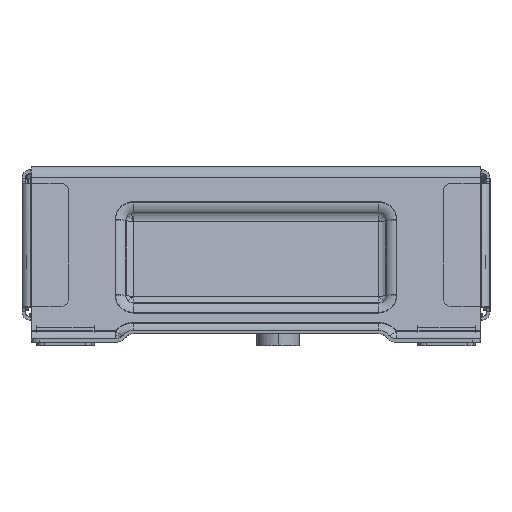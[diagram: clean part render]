
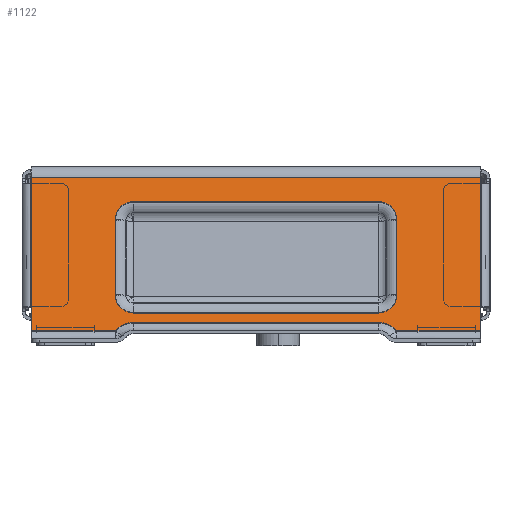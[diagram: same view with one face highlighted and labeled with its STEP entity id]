
A CAD part, left-side view. The second image highlights one B-rep face of the part: STEP entity #1122.
In plain terms, the highlighted planar face has unit normal (-0.979, 0, 0.203).
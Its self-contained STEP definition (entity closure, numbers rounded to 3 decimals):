
#750=CARTESIAN_POINT('Vertex',(-474.382,-861.,100.023)) ;
#753=CARTESIAN_POINT('Line Origine',(-483.738,-861.,54.853)) ;
#757=CARTESIAN_POINT('Vertex',(-493.095,-861.,9.683)) ;
#966=CARTESIAN_POINT('Vertex',(-493.095,-811.724,9.683)) ;
#976=CARTESIAN_POINT('Line Origine',(-493.095,-729.,9.683)) ;
#989=CARTESIAN_POINT('Axis2P3D Location',(-473.061,-729.,106.4)) ;
#994=CARTESIAN_POINT('Line Origine',(-492.059,-729.,14.683)) ;
#998=CARTESIAN_POINT('Vertex',(-492.059,-801.,14.683)) ;
#1000=CARTESIAN_POINT('Vertex',(-492.059,-657.,14.683)) ;
#1004=CARTESIAN_POINT('Control Point',(-493.095,-811.724,9.683)) ;
#1005=CARTESIAN_POINT('Control Point',(-492.893,-810.91,10.654)) ;
#1006=CARTESIAN_POINT('Control Point',(-492.711,-809.983,11.535)) ;
#1007=CARTESIAN_POINT('Control Point',(-492.551,-808.957,12.308)) ;
#1008=CARTESIAN_POINT('Control Point',(-492.293,-806.839,13.554)) ;
#1009=CARTESIAN_POINT('Control Point',(-492.135,-804.496,14.315)) ;
#1010=CARTESIAN_POINT('Control Point',(-492.084,-803.343,14.561)) ;
#1011=CARTESIAN_POINT('Control Point',(-492.059,-802.172,14.683)) ;
#1012=CARTESIAN_POINT('Control Point',(-492.059,-801.,14.683)) ;
#1014=CARTESIAN_POINT('Line Origine',(-474.382,-729.,100.023)) ;
#1018=CARTESIAN_POINT('Vertex',(-474.382,-597.,100.023)) ;
#1021=CARTESIAN_POINT('Line Origine',(-483.738,-597.,54.853)) ;
#1025=CARTESIAN_POINT('Vertex',(-493.095,-597.,9.683)) ;
#1028=CARTESIAN_POINT('Line Origine',(-493.095,-621.639,9.683)) ;
#1032=CARTESIAN_POINT('Vertex',(-493.095,-646.277,9.683)) ;
#1036=CARTESIAN_POINT('Control Point',(-492.059,-657.,14.683)) ;
#1037=CARTESIAN_POINT('Control Point',(-492.059,-655.729,14.683)) ;
#1038=CARTESIAN_POINT('Control Point',(-492.089,-654.457,14.539)) ;
#1039=CARTESIAN_POINT('Control Point',(-492.149,-653.208,14.249)) ;
#1040=CARTESIAN_POINT('Control Point',(-492.32,-650.885,13.425)) ;
#1041=CARTESIAN_POINT('Control Point',(-492.589,-648.804,12.124)) ;
#1042=CARTESIAN_POINT('Control Point',(-492.74,-647.873,11.396)) ;
#1043=CARTESIAN_POINT('Control Point',(-492.909,-647.027,10.578)) ;
#1044=CARTESIAN_POINT('Control Point',(-493.095,-646.277,9.683)) ;
#1056=CARTESIAN_POINT('Line Origine',(-477.377,-729.,85.561)) ;
#1060=CARTESIAN_POINT('Vertex',(-477.377,-801.,85.561)) ;
#1062=CARTESIAN_POINT('Vertex',(-477.377,-657.,85.561)) ;
#1065=CARTESIAN_POINT('Axis2P3D Location',(-479.552,-801.,75.06)) ;
#1069=CARTESIAN_POINT('Vertex',(-479.552,-811.724,75.06)) ;
#1072=CARTESIAN_POINT('Line Origine',(-484.11,-811.724,53.06)) ;
#1076=CARTESIAN_POINT('Vertex',(-488.667,-811.724,31.06)) ;
#1079=CARTESIAN_POINT('Axis2P3D Location',(-488.667,-801.,31.06)) ;
#1083=CARTESIAN_POINT('Vertex',(-490.842,-801.,20.559)) ;
#1086=CARTESIAN_POINT('Line Origine',(-490.842,-729.,20.559)) ;
#1090=CARTESIAN_POINT('Vertex',(-490.842,-657.,20.559)) ;
#1093=CARTESIAN_POINT('Axis2P3D Location',(-488.667,-657.,31.06)) ;
#1097=CARTESIAN_POINT('Vertex',(-488.667,-646.277,31.06)) ;
#1100=CARTESIAN_POINT('Line Origine',(-484.11,-646.277,53.06)) ;
#1104=CARTESIAN_POINT('Vertex',(-479.552,-646.277,75.06)) ;
#1107=CARTESIAN_POINT('Axis2P3D Location',(-479.552,-657.,75.06)) ;
#754=DIRECTION('Vector Direction',(-0.203,0.,-0.979)) ;
#977=DIRECTION('Vector Direction',(0.,1.,0.)) ;
#990=DIRECTION('Axis2P3D Direction',(0.979,0.,-0.203)) ;
#991=DIRECTION('Axis2P3D XDirection',(-0.203,0.,-0.979)) ;
#995=DIRECTION('Vector Direction',(0.,-1.,0.)) ;
#1015=DIRECTION('Vector Direction',(0.,1.,0.)) ;
#1022=DIRECTION('Vector Direction',(-0.203,0.,-0.979)) ;
#1029=DIRECTION('Vector Direction',(0.,1.,0.)) ;
#1057=DIRECTION('Vector Direction',(0.,-1.,0.)) ;
#1066=DIRECTION('Axis2P3D Direction',(0.979,0.,-0.203)) ;
#1073=DIRECTION('Vector Direction',(-0.203,0.,-0.979)) ;
#1080=DIRECTION('Axis2P3D Direction',(0.979,0.,-0.203)) ;
#1087=DIRECTION('Vector Direction',(0.,1.,0.)) ;
#1094=DIRECTION('Axis2P3D Direction',(0.979,0.,-0.203)) ;
#1101=DIRECTION('Vector Direction',(0.203,0.,0.979)) ;
#1108=DIRECTION('Axis2P3D Direction',(0.979,0.,-0.203)) ;
#992=AXIS2_PLACEMENT_3D('Plane Axis2P3D',#989,#990,#991) ;
#1067=AXIS2_PLACEMENT_3D('Circle Axis2P3D',#1065,#1066,$) ;
#1081=AXIS2_PLACEMENT_3D('Circle Axis2P3D',#1079,#1080,$) ;
#1095=AXIS2_PLACEMENT_3D('Circle Axis2P3D',#1093,#1094,$) ;
#1109=AXIS2_PLACEMENT_3D('Circle Axis2P3D',#1107,#1108,$) ;
#1047=ORIENTED_EDGE('',*,*,#1002,.F.) ;
#1048=ORIENTED_EDGE('',*,*,#1013,.F.) ;
#1049=ORIENTED_EDGE('',*,*,#980,.F.) ;
#1050=ORIENTED_EDGE('',*,*,#759,.F.) ;
#1051=ORIENTED_EDGE('',*,*,#1020,.T.) ;
#1052=ORIENTED_EDGE('',*,*,#1027,.T.) ;
#1053=ORIENTED_EDGE('',*,*,#1034,.F.) ;
#1054=ORIENTED_EDGE('',*,*,#1045,.F.) ;
#1113=ORIENTED_EDGE('',*,*,#1064,.F.) ;
#1114=ORIENTED_EDGE('',*,*,#1071,.F.) ;
#1115=ORIENTED_EDGE('',*,*,#1078,.F.) ;
#1116=ORIENTED_EDGE('',*,*,#1085,.F.) ;
#1117=ORIENTED_EDGE('',*,*,#1092,.F.) ;
#1118=ORIENTED_EDGE('',*,*,#1099,.F.) ;
#1119=ORIENTED_EDGE('',*,*,#1106,.F.) ;
#1120=ORIENTED_EDGE('',*,*,#1111,.F.) ;
#1121=FACE_BOUND('',#1112,.T.) ;
#755=VECTOR('Line Direction',#754,1.) ;
#978=VECTOR('Line Direction',#977,1.) ;
#996=VECTOR('Line Direction',#995,1.) ;
#1016=VECTOR('Line Direction',#1015,1.) ;
#1023=VECTOR('Line Direction',#1022,1.) ;
#1030=VECTOR('Line Direction',#1029,1.) ;
#1058=VECTOR('Line Direction',#1057,1.) ;
#1074=VECTOR('Line Direction',#1073,1.) ;
#1088=VECTOR('Line Direction',#1087,1.) ;
#1102=VECTOR('Line Direction',#1101,1.) ;
#1122=ADVANCED_FACE('SHT0016014.1\\SHT0016145-\X2\5BBD8F664E3B9A7E9A76524D4FA794A391D1\X0\',(#1055,#1121),#993,.F.) ;
#1003=B_SPLINE_CURVE_WITH_KNOTS('',5,(#1004,#1005,#1006,#1007,#1008,#1009,#1010,#1011,#1012),.UNSPECIFIED.,.F.,.U.,(6,3,6),(0.,9.094,17.391),.UNSPECIFIED.) ;
#1035=B_SPLINE_CURVE_WITH_KNOTS('',5,(#1036,#1037,#1038,#1039,#1040,#1041,#1042,#1043,#1044),.UNSPECIFIED.,.F.,.U.,(6,3,6),(0.,9.01,17.391),.UNSPECIFIED.) ;
#1068=CIRCLE('generated circle',#1067,10.724) ;
#1082=CIRCLE('generated circle',#1081,10.724) ;
#1096=CIRCLE('generated circle',#1095,10.724) ;
#1110=CIRCLE('generated circle',#1109,10.724) ;
#759=EDGE_CURVE('',#751,#758,#756,.T.) ;
#980=EDGE_CURVE('',#758,#967,#979,.T.) ;
#1002=EDGE_CURVE('',#999,#1001,#997,.F.) ;
#1013=EDGE_CURVE('',#967,#999,#1003,.T.) ;
#1020=EDGE_CURVE('',#751,#1019,#1017,.T.) ;
#1027=EDGE_CURVE('',#1019,#1026,#1024,.T.) ;
#1034=EDGE_CURVE('',#1033,#1026,#1031,.T.) ;
#1045=EDGE_CURVE('',#1001,#1033,#1035,.T.) ;
#1064=EDGE_CURVE('',#1061,#1063,#1059,.F.) ;
#1071=EDGE_CURVE('',#1070,#1061,#1068,.F.) ;
#1078=EDGE_CURVE('',#1077,#1070,#1075,.F.) ;
#1085=EDGE_CURVE('',#1084,#1077,#1082,.F.) ;
#1092=EDGE_CURVE('',#1091,#1084,#1089,.F.) ;
#1099=EDGE_CURVE('',#1098,#1091,#1096,.F.) ;
#1106=EDGE_CURVE('',#1105,#1098,#1103,.F.) ;
#1111=EDGE_CURVE('',#1063,#1105,#1110,.F.) ;
#1046=EDGE_LOOP('',(#1047,#1048,#1049,#1050,#1051,#1052,#1053,#1054)) ;
#1112=EDGE_LOOP('',(#1113,#1114,#1115,#1116,#1117,#1118,#1119,#1120)) ;
#1055=FACE_OUTER_BOUND('',#1046,.T.) ;
#756=LINE('Line',#753,#755) ;
#979=LINE('Line',#976,#978) ;
#997=LINE('Line',#994,#996) ;
#1017=LINE('Line',#1014,#1016) ;
#1024=LINE('Line',#1021,#1023) ;
#1031=LINE('Line',#1028,#1030) ;
#1059=LINE('Line',#1056,#1058) ;
#1075=LINE('Line',#1072,#1074) ;
#1089=LINE('Line',#1086,#1088) ;
#1103=LINE('Line',#1100,#1102) ;
#993=PLANE('Plane',#992) ;
#751=VERTEX_POINT('',#750) ;
#758=VERTEX_POINT('',#757) ;
#967=VERTEX_POINT('',#966) ;
#999=VERTEX_POINT('',#998) ;
#1001=VERTEX_POINT('',#1000) ;
#1019=VERTEX_POINT('',#1018) ;
#1026=VERTEX_POINT('',#1025) ;
#1033=VERTEX_POINT('',#1032) ;
#1061=VERTEX_POINT('',#1060) ;
#1063=VERTEX_POINT('',#1062) ;
#1070=VERTEX_POINT('',#1069) ;
#1077=VERTEX_POINT('',#1076) ;
#1084=VERTEX_POINT('',#1083) ;
#1091=VERTEX_POINT('',#1090) ;
#1098=VERTEX_POINT('',#1097) ;
#1105=VERTEX_POINT('',#1104) ;
